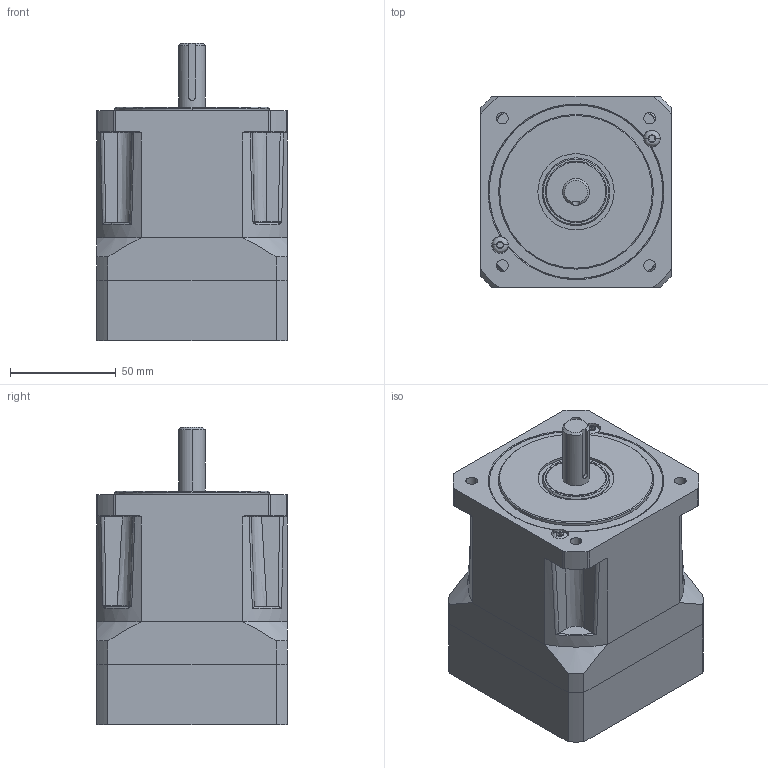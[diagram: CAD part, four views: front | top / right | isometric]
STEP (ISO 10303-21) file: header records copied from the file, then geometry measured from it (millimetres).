
FILE_DESCRIPTION((''),'2;1');
FILE_NAME('GEN_II_PX34_SINGLE_LONG_ADAPT','2008-11-20T',('aza7363'),(''),'PRO/ENGINEER BY PARAMETRIC TECHNOLOGY CORPORATION, 2006300','PRO/ENGINEER BY PARAMETRIC TECHNOLOGY CORPORATION, 2006300','');
FILE_SCHEMA(('CONFIG_CONTROL_DESIGN'));
Length unit declared in the file: millimetre
Products named in the file (1): GEN_II_PX34_SINGLE_LONG_ADAPT
Bounding box: 90 x 90 x 140.25 mm (x, y, z)
Surface area: 85785.4 mm2 (no closed solid volume)
Topology: 0 solids, 23 shells, 350 faces, 945 edges, 629 vertices
Faces by surface type: plane 142, cylinder 131, bspline 43, cone 20, torus 14
Entity records: 13047 total; most frequent: CARTESIAN_POINT 4349, DIRECTION 1805, ORIENTED_EDGE 1713, EDGE_CURVE 945, AXIS2_PLACEMENT_3D 681, VERTEX_POINT 629, VECTOR 443, LINE 443
